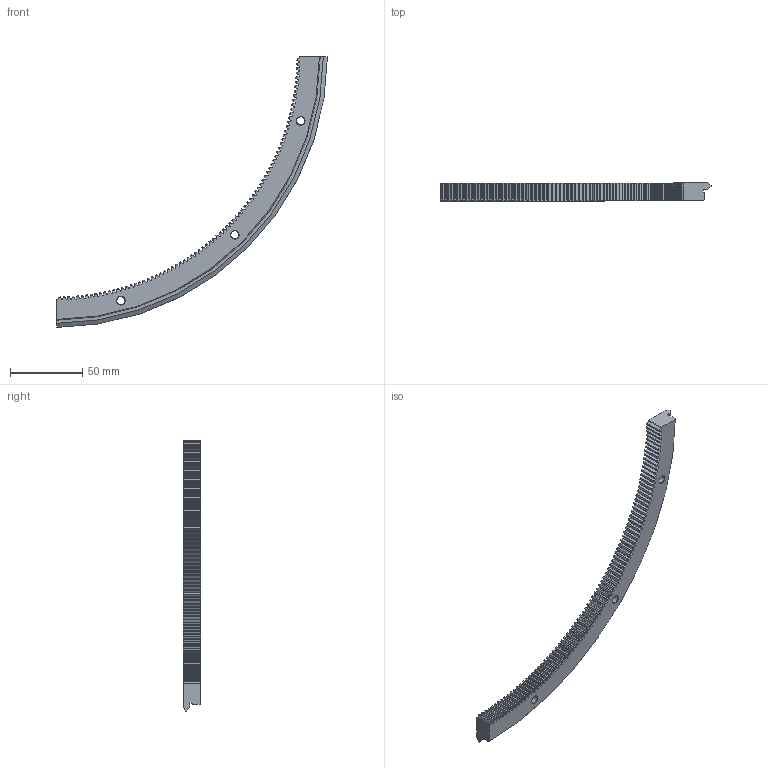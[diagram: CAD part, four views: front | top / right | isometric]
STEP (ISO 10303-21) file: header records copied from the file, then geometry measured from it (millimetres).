
FILE_DESCRIPTION( ( 'STEP AP203' ), '1' );
FILE_NAME( 'p:/temp/worker_55/temp/exporttempdir_1840_845_JWivI/format_0/RES 376 R90 Q.stp', '2021-08-30T05:08:49', ( 'License CC BY-ND 4.0' ), ( 'CADENAS' ), ' ', 'PARTsolutions', ' ' );
FILE_SCHEMA( ( 'CONFIG_CONTROL_DESIGN' ) );
Length unit declared in the file: millimetre
Products named in the file (1): _RES 376 R90 Q
Bounding box: 186.99 x 12.25 x 186.99 mm (x, y, z)
Volume: 53317.4 mm3; surface area: 21246.3 mm2
Topology: 1 solids, 1 shells, 442 faces, 1308 edges, 871 vertices
Faces by surface type: plane 177, cylinder 175, cone 89, torus 1
Full cylindrical faces by diameter (mm): 5.5 x3, 10 x3
Entity records: 15086 total; most frequent: CARTESIAN_POINT 3147, ORIENTED_EDGE 2598, DIRECTION 2452, EDGE_CURVE 1299, AXIS2_PLACEMENT_3D 884, VERTEX_POINT 871, LINE 684, VECTOR 684
